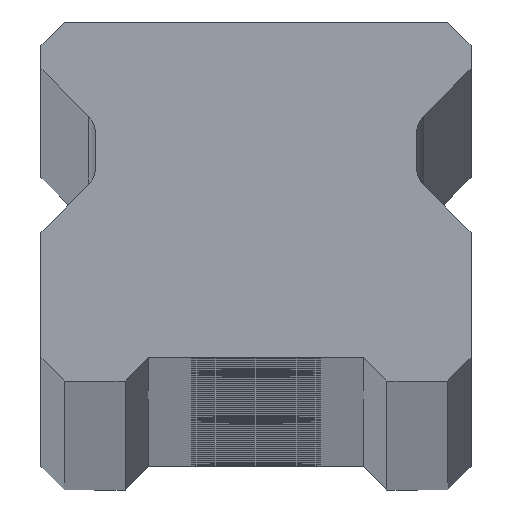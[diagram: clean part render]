
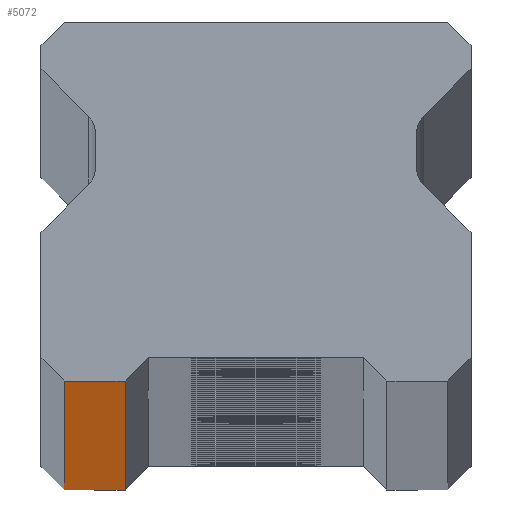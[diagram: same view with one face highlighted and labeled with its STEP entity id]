
A CAD part, top view. The second image highlights one B-rep face of the part: STEP entity #5072.
In plain terms, the highlighted planar face has unit normal (0, -1, 0).
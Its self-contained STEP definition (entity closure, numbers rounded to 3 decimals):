
#78 = CARTESIAN_POINT ( 'NONE',  ( -10.25, 0., 1670. ) ) ;
#103 = DIRECTION ( 'NONE',  ( 0., 0., 1. ) ) ;
#212 = EDGE_LOOP ( 'NONE', ( #8815, #1675, #7679, #4282 ) ) ;
#301 = EDGE_CURVE ( 'NONE', #2212, #1015, #4492, .T. ) ;
#809 = DIRECTION ( 'NONE',  ( 0., 0., -1. ) ) ;
#1015 = VERTEX_POINT ( 'NONE', #5492 ) ;
#1431 = LINE ( 'NONE', #78, #1661 ) ;
#1571 = VERTEX_POINT ( 'NONE', #4653 ) ;
#1603 = CARTESIAN_POINT ( 'NONE',  ( -7., 0., -1670. ) ) ;
#1661 = VECTOR ( 'NONE', #809, 1000. ) ;
#1675 = ORIENTED_EDGE ( 'NONE', *, *, #301, .T. ) ;
#2212 = VERTEX_POINT ( 'NONE', #7112 ) ;
#2502 = DIRECTION ( 'NONE',  ( 0., 1., 0. ) ) ;
#2838 = CARTESIAN_POINT ( 'NONE',  ( 11.5, 0., 1670. ) ) ;
#3329 = DIRECTION ( 'NONE',  ( 1., 0., 0. ) ) ;
#3464 = VECTOR ( 'NONE', #103, 1000. ) ;
#3725 = CARTESIAN_POINT ( 'NONE',  ( -10.25, 0., -1670. ) ) ;
#3967 = CARTESIAN_POINT ( 'NONE',  ( 11.5, 0., 1670. ) ) ;
#4282 = ORIENTED_EDGE ( 'NONE', *, *, #5413, .T. ) ;
#4387 = EDGE_CURVE ( 'NONE', #1571, #1015, #6888, .T. ) ;
#4492 = LINE ( 'NONE', #1603, #3464 ) ;
#4500 = VERTEX_POINT ( 'NONE', #3725 ) ;
#4653 = CARTESIAN_POINT ( 'NONE',  ( -10.25, 0., 1670. ) ) ;
#4667 = EDGE_CURVE ( 'NONE', #4500, #2212, #6649, .T. ) ;
#5072 = ADVANCED_FACE ( 'NONE', ( #6758 ), #9155, .F. ) ;
#5383 = DIRECTION ( 'NONE',  ( -1., 0., 0. ) ) ;
#5413 = EDGE_CURVE ( 'NONE', #1571, #4500, #1431, .T. ) ;
#5492 = CARTESIAN_POINT ( 'NONE',  ( -7., 0., 1670. ) ) ;
#5625 = CARTESIAN_POINT ( 'NONE',  ( 11.5, 0., -1670. ) ) ;
#5946 = VECTOR ( 'NONE', #3329, 1000. ) ;
#5954 = VECTOR ( 'NONE', #7336, 1000. ) ;
#6649 = LINE ( 'NONE', #5625, #5946 ) ;
#6758 = FACE_OUTER_BOUND ( 'NONE', #212, .T. ) ;
#6888 = LINE ( 'NONE', #2838, #5954 ) ;
#7112 = CARTESIAN_POINT ( 'NONE',  ( -7., 0., -1670. ) ) ;
#7336 = DIRECTION ( 'NONE',  ( 1., 0., 0. ) ) ;
#7679 = ORIENTED_EDGE ( 'NONE', *, *, #4387, .F. ) ;
#8194 = AXIS2_PLACEMENT_3D ( 'NONE', #3967, #2502, #5383 ) ;
#8815 = ORIENTED_EDGE ( 'NONE', *, *, #4667, .T. ) ;
#9155 = PLANE ( 'NONE',  #8194 ) ;
